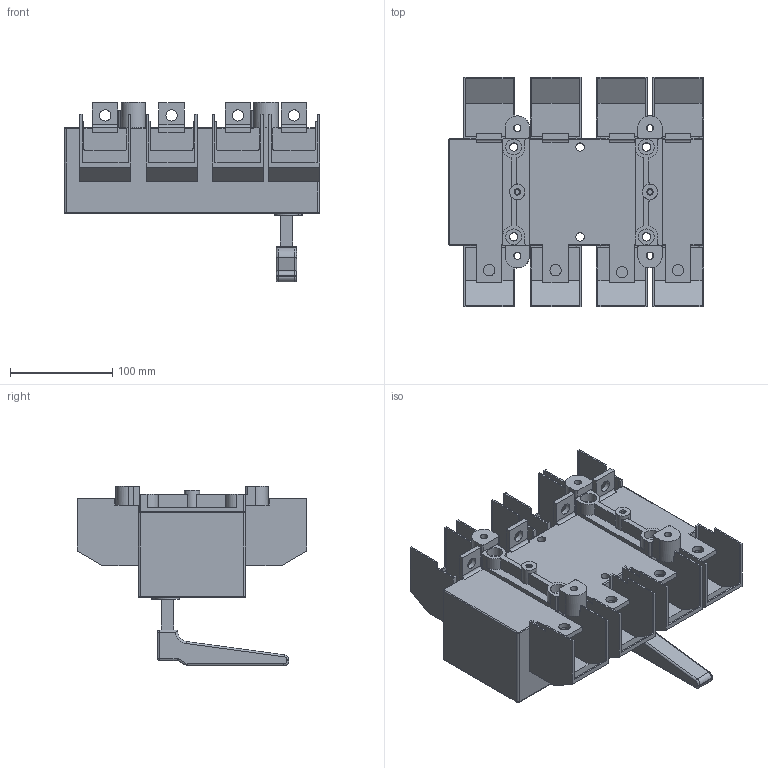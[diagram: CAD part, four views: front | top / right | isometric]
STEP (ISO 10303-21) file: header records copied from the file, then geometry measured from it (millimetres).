
FILE_DESCRIPTION(/* description */ (''),/* implementation_level */ '2;1');
FILE_NAME(/* name */ 'RA630 P3 NB-R z oslona zaciskow.stp',/* time_stamp */ '2021-08-19T08:24:28+02:00',/* author */ (''),/* organization */ (''),/* preprocessor_version */ 'ST-DEVELOPER v18.1',/* originating_system */ 'SIEMENS PLM Software NX 1965',/* authorisation */ '');
FILE_SCHEMA (('AUTOMOTIVE_DESIGN { 1 0 10303 214 3 1 1 1 }'));
Length unit declared in the file: millimetre
Products named in the file (1): RA630 P3 NB-R z oslona zaciskow
Bounding box: 250 x 225 x 176 mm (x, y, z)
Volume: 2484376.5 mm3; surface area: 344763 mm2
Topology: 1 solids, 1 shells, 492 faces, 1413 edges, 915 vertices
Faces by surface type: plane 333, cylinder 137, bspline 8, torus 8, sphere 6
Full cylindrical faces by diameter (mm): 4.8 x2, 6.2 x2, 7 x4, 8.2 x6, 11 x8, 14 x4, 15 x2, 15.5 x4
Entity records: 15971 total; most frequent: CARTESIAN_POINT 2929, ORIENTED_EDGE 2734, DIRECTION 2659, EDGE_CURVE 1367, LINE 1037, VECTOR 1037, VERTEX_POINT 904, AXIS2_PLACEMENT_3D 811
